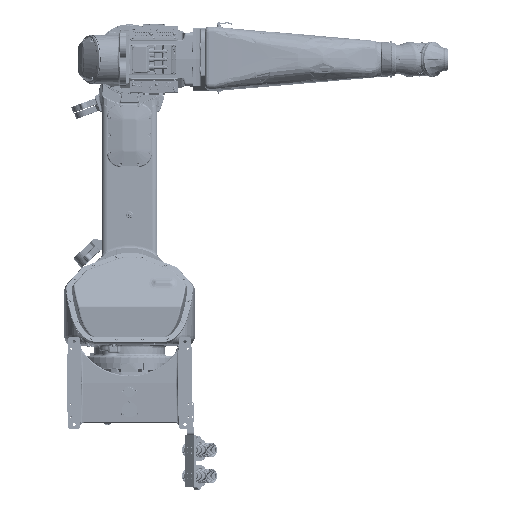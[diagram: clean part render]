
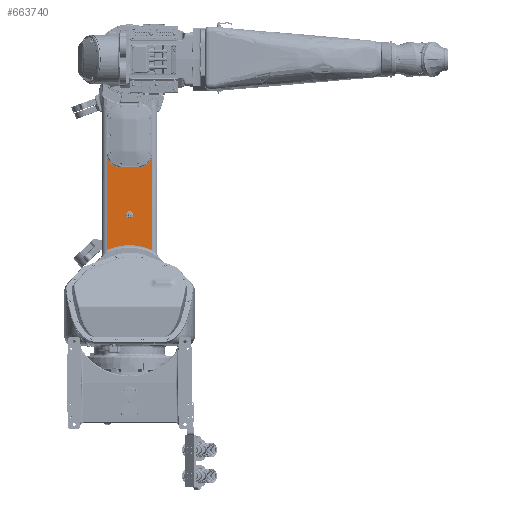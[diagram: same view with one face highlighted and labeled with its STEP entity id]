
A CAD part, left-side view. The second image highlights one B-rep face of the part: STEP entity #663740.
In plain terms, the highlighted planar face has unit normal (-1, 0, 0) as drawn and (0, 0, -1) by its records, which use the part's own axes.
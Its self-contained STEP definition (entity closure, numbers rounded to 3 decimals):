
#4232 = CIRCLE ( 'NONE', #88639, 1.35 ) ;
#21209 = VERTEX_POINT ( 'NONE', #793145 ) ;
#47535 = VERTEX_POINT ( 'NONE', #109672 ) ;
#49051 = DIRECTION ( 'NONE',  ( 0., 1., 0. ) ) ;
#58927 = CIRCLE ( 'NONE', #747453, 1.35 ) ;
#66756 = CIRCLE ( 'NONE', #643095, 1.35 ) ;
#73708 = VERTEX_POINT ( 'NONE', #178688 ) ;
#88639 = AXIS2_PLACEMENT_3D ( 'NONE', #527292, #110505, #597584 ) ;
#99488 = VERTEX_POINT ( 'NONE', #116897 ) ;
#109672 = CARTESIAN_POINT ( 'NONE',  ( 84.05, 577.25, -35. ) ) ;
#110505 = DIRECTION ( 'NONE',  ( 0., 0., -1. ) ) ;
#111736 = EDGE_CURVE ( 'NONE', #73708, #127924, #698406, .T. ) ;
#115701 = DIRECTION ( 'NONE',  ( 0., 0., 1. ) ) ;
#116897 = CARTESIAN_POINT ( 'NONE',  ( 84.05, 495., -35. ) ) ;
#119394 = CARTESIAN_POINT ( 'NONE',  ( 0., 715.172, -35. ) ) ;
#126039 = DIRECTION ( 'NONE',  ( 0., 0., 1. ) ) ;
#127924 = VERTEX_POINT ( 'NONE', #585118 ) ;
#137936 = CARTESIAN_POINT ( 'NONE',  ( 45., 795., -35. ) ) ;
#144280 = VERTEX_POINT ( 'NONE', #382692 ) ;
#151039 = ORIENTED_EDGE ( 'NONE', *, *, #111736, .T. ) ;
#154200 = ORIENTED_EDGE ( 'NONE', *, *, #730490, .T. ) ;
#165092 = EDGE_CURVE ( 'NONE', #99488, #99488, #66756, .T. ) ;
#178688 = CARTESIAN_POINT ( 'NONE',  ( 119.807, 767.135, -35. ) ) ;
#199277 = EDGE_LOOP ( 'NONE', ( #626138, #154200, #636835, #706636, #151039, #226293 ) ) ;
#207844 = DIRECTION ( 'NONE',  ( 1., 0., 0. ) ) ;
#226293 = ORIENTED_EDGE ( 'NONE', *, *, #689214, .T. ) ;
#226463 = CIRCLE ( 'NONE', #764733, 295. ) ;
#238971 = EDGE_LOOP ( 'NONE', ( #514550 ) ) ;
#241446 = VERTEX_POINT ( 'NONE', #473514 ) ;
#245332 = EDGE_CURVE ( 'NONE', #439203, #439203, #315548, .T. ) ;
#245686 = CARTESIAN_POINT ( 'NONE',  ( -85.4, 495., -35. ) ) ;
#253310 = LINE ( 'NONE', #119394, #255389 ) ;
#255389 = VECTOR ( 'NONE', #536157, 1000. ) ;
#270058 = CIRCLE ( 'NONE', #408307, 19.582 ) ;
#277301 = CARTESIAN_POINT ( 'NONE',  ( 85.4, 495., -35. ) ) ;
#281100 = LINE ( 'NONE', #396024, #290721 ) ;
#290721 = VECTOR ( 'NONE', #49051, 1000. ) ;
#298315 = EDGE_CURVE ( 'NONE', #21209, #73708, #640486, .T. ) ;
#315548 = CIRCLE ( 'NONE', #860309, 1.35 ) ;
#315717 = DIRECTION ( 'NONE',  ( -1., 0., 0. ) ) ;
#344199 = CARTESIAN_POINT ( 'NONE',  ( 19.582, 458.955, -35. ) ) ;
#347369 = DIRECTION ( 'NONE',  ( -1., 0., 0. ) ) ;
#363214 = ORIENTED_EDGE ( 'NONE', *, *, #165092, .F. ) ;
#382692 = CARTESIAN_POINT ( 'NONE',  ( -119.807, 269.576, -35. ) ) ;
#395026 = DIRECTION ( 'NONE',  ( 0., 0., 1. ) ) ;
#396024 = CARTESIAN_POINT ( 'NONE',  ( -119.807, 1300., -35. ) ) ;
#399594 = DIRECTION ( 'NONE',  ( 0., 0., 1. ) ) ;
#402962 = CARTESIAN_POINT ( 'NONE',  ( 0., 0., -35. ) ) ;
#407253 = EDGE_LOOP ( 'NONE', ( #363214 ) ) ;
#407847 = DIRECTION ( 'NONE',  ( 0., 0., -1. ) ) ;
#408307 = AXIS2_PLACEMENT_3D ( 'NONE', #532489, #115701, #602771 ) ;
#439203 = VERTEX_POINT ( 'NONE', #696973 ) ;
#460733 = CARTESIAN_POINT ( 'NONE',  ( -86.75, 495., -35. ) ) ;
#461475 = ORIENTED_EDGE ( 'NONE', *, *, #245332, .F. ) ;
#462606 = VERTEX_POINT ( 'NONE', #460733 ) ;
#473514 = CARTESIAN_POINT ( 'NONE',  ( -119.807, 767.135, -35. ) ) ;
#483933 = CARTESIAN_POINT ( 'NONE',  ( -45., 715.172, -35. ) ) ;
#494272 = EDGE_LOOP ( 'NONE', ( #461475 ) ) ;
#496903 = EDGE_CURVE ( 'NONE', #872808, #21209, #253310, .T. ) ;
#498402 = CIRCLE ( 'NONE', #862408, 79.828 ) ;
#514550 = ORIENTED_EDGE ( 'NONE', *, *, #756207, .F. ) ;
#527292 = CARTESIAN_POINT ( 'NONE',  ( 85.4, 577.25, -35. ) ) ;
#532489 = CARTESIAN_POINT ( 'NONE',  ( 0., 458.955, -35. ) ) ;
#536157 = DIRECTION ( 'NONE',  ( 1., 0., 0. ) ) ;
#542806 = PLANE ( 'NONE',  #603950 ) ;
#542855 = CARTESIAN_POINT ( 'NONE',  ( 119.807, 19.11, -35. ) ) ;
#546932 = DIRECTION ( 'NONE',  ( 0., -1., 0. ) ) ;
#552614 = ORIENTED_EDGE ( 'NONE', *, *, #857879, .F. ) ;
#572019 = EDGE_CURVE ( 'NONE', #774991, #774991, #270058, .T. ) ;
#585118 = CARTESIAN_POINT ( 'NONE',  ( 119.807, 269.576, -35. ) ) ;
#597584 = DIRECTION ( 'NONE',  ( -1., 0., 0. ) ) ;
#602771 = DIRECTION ( 'NONE',  ( 1., 0., 0. ) ) ;
#603950 = AXIS2_PLACEMENT_3D ( 'NONE', #402962, #126039, #613092 ) ;
#613092 = DIRECTION ( 'NONE',  ( 1., 0., 0. ) ) ;
#624991 = DIRECTION ( 'NONE',  ( 0., 0., 1. ) ) ;
#626138 = ORIENTED_EDGE ( 'NONE', *, *, #870810, .T. ) ;
#630217 = AXIS2_PLACEMENT_3D ( 'NONE', #137936, #624991, #207844 ) ;
#636835 = ORIENTED_EDGE ( 'NONE', *, *, #496903, .T. ) ;
#640486 = CIRCLE ( 'NONE', #630217, 79.828 ) ;
#643095 = AXIS2_PLACEMENT_3D ( 'NONE', #277301, #764607, #347369 ) ;
#663740 = ADVANCED_FACE ( 'NONE', ( #697317, #694564, #691939, #691059, #690230, #689360 ), #542806, .F. ) ;
#689214 = EDGE_CURVE ( 'NONE', #127924, #144280, #226463, .T. ) ;
#689360 = FACE_OUTER_BOUND ( 'NONE', #199277, .T. ) ;
#690230 = FACE_BOUND ( 'NONE', #848570, .T. ) ;
#691059 = FACE_BOUND ( 'NONE', #494272, .T. ) ;
#691939 = FACE_BOUND ( 'NONE', #827501, .T. ) ;
#694564 = FACE_BOUND ( 'NONE', #238971, .T. ) ;
#696973 = CARTESIAN_POINT ( 'NONE',  ( -86.75, 577.25, -35. ) ) ;
#697317 = FACE_BOUND ( 'NONE', #407253, .T. ) ;
#698406 = LINE ( 'NONE', #542855, #701019 ) ;
#701019 = VECTOR ( 'NONE', #546932, 1000. ) ;
#706636 = ORIENTED_EDGE ( 'NONE', *, *, #298315, .T. ) ;
#730490 = EDGE_CURVE ( 'NONE', #241446, #872808, #498402, .T. ) ;
#732931 = DIRECTION ( 'NONE',  ( 0., 0., -1. ) ) ;
#747453 = AXIS2_PLACEMENT_3D ( 'NONE', #245686, #732931, #315717 ) ;
#756207 = EDGE_CURVE ( 'NONE', #47535, #47535, #4232, .T. ) ;
#764607 = DIRECTION ( 'NONE',  ( 0., 0., -1. ) ) ;
#764733 = AXIS2_PLACEMENT_3D ( 'NONE', #816953, #399594, #887007 ) ;
#774991 = VERTEX_POINT ( 'NONE', #344199 ) ;
#793145 = CARTESIAN_POINT ( 'NONE',  ( 45., 715.172, -35. ) ) ;
#812355 = CARTESIAN_POINT ( 'NONE',  ( -45., 795., -35. ) ) ;
#816953 = CARTESIAN_POINT ( 'NONE',  ( 0., 0., -35. ) ) ;
#825229 = CARTESIAN_POINT ( 'NONE',  ( -85.4, 577.25, -35. ) ) ;
#827501 = EDGE_LOOP ( 'NONE', ( #552614 ) ) ;
#848570 = EDGE_LOOP ( 'NONE', ( #890820 ) ) ;
#857879 = EDGE_CURVE ( 'NONE', #462606, #462606, #58927, .T. ) ;
#860309 = AXIS2_PLACEMENT_3D ( 'NONE', #825229, #407847, #895276 ) ;
#862408 = AXIS2_PLACEMENT_3D ( 'NONE', #812355, #395026, #882466 ) ;
#870810 = EDGE_CURVE ( 'NONE', #144280, #241446, #281100, .T. ) ;
#872808 = VERTEX_POINT ( 'NONE', #483933 ) ;
#882466 = DIRECTION ( 'NONE',  ( 1., 0., 0. ) ) ;
#887007 = DIRECTION ( 'NONE',  ( 1., 0., 0. ) ) ;
#890820 = ORIENTED_EDGE ( 'NONE', *, *, #572019, .T. ) ;
#895276 = DIRECTION ( 'NONE',  ( -1., 0., 0. ) ) ;
